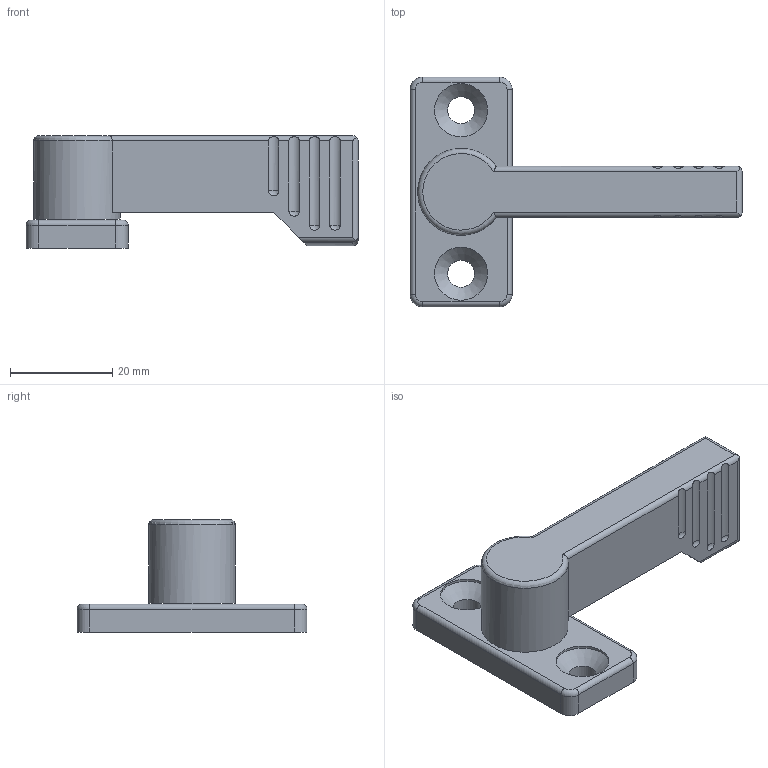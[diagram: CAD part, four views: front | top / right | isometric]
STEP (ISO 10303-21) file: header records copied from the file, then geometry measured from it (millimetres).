
FILE_DESCRIPTION(/* description */ ('STEP AP214'),/* implementation_level */ '2;1');
FILE_NAME(/* name */ 'Stop Lock GN 702-17-55-A-SW (0)',/* time_stamp */ '2024-10-01T09:59:56+02:00',/* author */ ('License CC BY-ND 4.0'),/* organization */ ('CADENAS'),/* preprocessor_version */ 'ST-DEVELOPER v19.3',/* originating_system */ 'PARTsolutions',/* authorisation */ ' ');
FILE_SCHEMA (('AUTOMOTIVE_DESIGN {1 0 10303 214 3 1 1}'));
Length unit declared in the file: millimetre
Products named in the file (3): Stop Lock GN 702-17-55-A-SW (0); Stop Lock GN 702-17-55-A-SW-1; Stop Lock GN 702-17-55-A-SW-2
Assembly tree (2 placements, depth 2):
  Stop Lock GN 702-17-55-A-SW (0)
    Stop Lock GN 702-17-55-A-SW-1
    Stop Lock GN 702-17-55-A-SW-2
Bounding box: 65 x 45 x 22 mm (x, y, z)
Volume: 15931.4 mm3; surface area: 6703.3 mm2
Topology: 2 solids, 2 shells, 70 faces, 166 edges, 106 vertices
Faces by surface type: cylinder 35, plane 19, sphere 8, torus 6, cone 2
Full cylindrical faces by diameter (mm): 5.3 x2, 9 x2, 10 x4, 10.4 x2, 17 x1
Entity records: 2080 total; most frequent: CARTESIAN_POINT 398, DIRECTION 357, ORIENTED_EDGE 304, EDGE_CURVE 152, AXIS2_PLACEMENT_3D 146, VERTEX_POINT 105, EDGE_LOOP 93, FACE_BOUND 93
